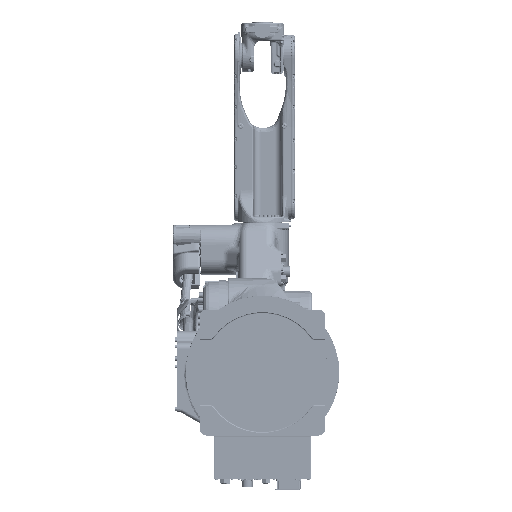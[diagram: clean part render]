
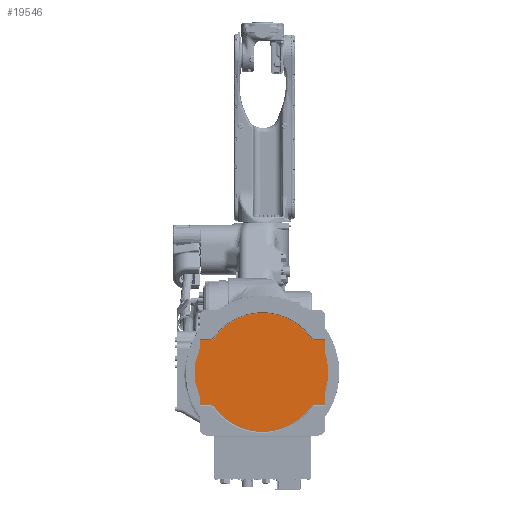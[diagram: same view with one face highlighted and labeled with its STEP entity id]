
A CAD part, front view. The second image highlights one B-rep face of the part: STEP entity #19546.
In plain terms, the highlighted planar face has unit normal (0, -1, 0).
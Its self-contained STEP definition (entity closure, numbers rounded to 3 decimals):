
#1506=DIRECTION('',(1.,0.,0.));
#1507=VECTOR('',#1506,32.581);
#1508=CARTESIAN_POINT('',(154.919,5.,97.));
#1509=LINE('',#1508,#1507);
#1510=DIRECTION('',(-1.,0.,0.));
#1511=VECTOR('',#1510,32.581);
#1512=CARTESIAN_POINT('',(187.5,5.,-97.));
#1513=LINE('',#1512,#1511);
#1514=CARTESIAN_POINT('',(154.919,5.,-110.));
#1515=DIRECTION('',(0.,-1.,0.));
#1516=DIRECTION('',(0.,0.,1.));
#1517=AXIS2_PLACEMENT_3D('',#1514,#1515,#1516);
#1519=CARTESIAN_POINT('',(0.,5.,0.));
#1520=DIRECTION('',(0.,1.,0.));
#1521=DIRECTION('',(0.815,0.,-0.579));
#1522=AXIS2_PLACEMENT_3D('',#1519,#1520,#1521);
#1524=CARTESIAN_POINT('',(-154.919,5.,-110.));
#1525=DIRECTION('',(0.,-1.,0.));
#1526=DIRECTION('',(0.815,0.,0.579));
#1527=AXIS2_PLACEMENT_3D('',#1524,#1525,#1526);
#1529=DIRECTION('',(-1.,0.,0.));
#1530=VECTOR('',#1529,32.581);
#1531=CARTESIAN_POINT('',(-154.919,5.,-97.));
#1532=LINE('',#1531,#1530);
#1533=DIRECTION('',(1.,0.,0.));
#1534=VECTOR('',#1533,32.581);
#1535=CARTESIAN_POINT('',(-187.5,5.,97.));
#1536=LINE('',#1535,#1534);
#1537=CARTESIAN_POINT('',(-154.919,5.,110.));
#1538=DIRECTION('',(0.,-1.,0.));
#1539=DIRECTION('',(0.,0.,-1.));
#1540=AXIS2_PLACEMENT_3D('',#1537,#1538,#1539);
#1542=CARTESIAN_POINT('',(0.,5.,0.));
#1543=DIRECTION('',(0.,1.,0.));
#1544=DIRECTION('',(-0.815,0.,0.579));
#1545=AXIS2_PLACEMENT_3D('',#1542,#1543,#1544);
#1547=CARTESIAN_POINT('',(154.919,5.,110.));
#1548=DIRECTION('',(0.,-1.,0.));
#1549=DIRECTION('',(-0.815,0.,-0.579));
#1550=AXIS2_PLACEMENT_3D('',#1547,#1548,#1549);
#1594=DIRECTION('',(0.,0.,1.));
#1595=VECTOR('',#1594,23.948);
#1596=CARTESIAN_POINT('',(-187.5,5.,73.052));
#1597=LINE('',#1596,#1595);
#1615=CARTESIAN_POINT('',(-207.5,5.,73.052));
#1616=DIRECTION('',(0.,1.,0.));
#1617=DIRECTION('',(1.,0.,0.));
#1618=AXIS2_PLACEMENT_3D('',#1615,#1616,#1617);
#1661=DIRECTION('',(-0.298,0.,-0.954));
#1662=VECTOR('',#1661,38.855);
#1663=CARTESIAN_POINT('',(-188.41,5.,67.087));
#1664=LINE('',#1663,#1662);
#1703=DIRECTION('',(0.,0.,-1.));
#1704=VECTOR('',#1703,60.);
#1705=CARTESIAN_POINT('',(-200.,5.,30.));
#1706=LINE('',#1705,#1704);
#1750=CARTESIAN_POINT('',(-207.5,5.,-73.052));
#1751=DIRECTION('',(0.,1.,0.));
#1752=DIRECTION('',(0.954,0.,0.298));
#1753=AXIS2_PLACEMENT_3D('',#1750,#1751,#1752);
#1763=DIRECTION('',(0.298,0.,-0.954));
#1764=VECTOR('',#1763,38.855);
#1765=CARTESIAN_POINT('',(-200.,5.,-30.));
#1766=LINE('',#1765,#1764);
#1771=DIRECTION('',(0.,0.,1.));
#1772=VECTOR('',#1771,23.948);
#1773=CARTESIAN_POINT('',(-187.5,5.,-97.));
#1774=LINE('',#1773,#1772);
#2068=CARTESIAN_POINT('',(0.,5.,0.));
#2069=DIRECTION('',(0.,-1.,0.));
#2070=DIRECTION('',(0.963,0.,-0.269));
#2071=AXIS2_PLACEMENT_3D('',#2068,#2069,#2070);
#2084=CARTESIAN_POINT('',(207.5,5.,58.028));
#2085=DIRECTION('',(0.,1.,0.));
#2086=DIRECTION('',(-0.963,0.,-0.269));
#2087=AXIS2_PLACEMENT_3D('',#2084,#2085,#2086);
#2089=DIRECTION('',(0.,0.,1.));
#2090=VECTOR('',#2089,38.972);
#2091=CARTESIAN_POINT('',(187.5,5.,58.028));
#2092=LINE('',#2091,#2090);
#2552=CARTESIAN_POINT('',(207.5,5.,-58.028));
#2553=DIRECTION('',(0.,1.,0.));
#2554=DIRECTION('',(-1.,0.,0.));
#2555=AXIS2_PLACEMENT_3D('',#2552,#2553,#2554);
#2591=DIRECTION('',(0.,0.,1.));
#2592=VECTOR('',#2591,38.972);
#2593=CARTESIAN_POINT('',(187.5,5.,-97.));
#2594=LINE('',#2593,#2592);
#15098=CARTESIAN_POINT('',(-200.,5.,30.));
#15099=CARTESIAN_POINT('',(-200.,5.,-30.));
#15100=VERTEX_POINT('',#15098);
#15101=VERTEX_POINT('',#15099);
#15122=CARTESIAN_POINT('',(-154.919,5.,-97.));
#15123=CARTESIAN_POINT('',(-187.5,5.,-97.));
#15124=VERTEX_POINT('',#15122);
#15125=VERTEX_POINT('',#15123);
#15130=CARTESIAN_POINT('',(-144.32,5.,-102.474));
#15131=VERTEX_POINT('',#15130);
#15134=CARTESIAN_POINT('',(144.32,5.,-102.474));
#15135=VERTEX_POINT('',#15134);
#15138=CARTESIAN_POINT('',(154.919,5.,-97.));
#15139=VERTEX_POINT('',#15138);
#15144=CARTESIAN_POINT('',(187.5,5.,-97.));
#15145=VERTEX_POINT('',#15144);
#15146=CARTESIAN_POINT('',(154.919,5.,97.));
#15147=CARTESIAN_POINT('',(187.5,5.,97.));
#15148=VERTEX_POINT('',#15146);
#15149=VERTEX_POINT('',#15147);
#15154=CARTESIAN_POINT('',(144.32,5.,102.474));
#15155=VERTEX_POINT('',#15154);
#15158=CARTESIAN_POINT('',(-144.32,5.,102.474));
#15159=VERTEX_POINT('',#15158);
#15162=CARTESIAN_POINT('',(-154.919,5.,97.));
#15163=VERTEX_POINT('',#15162);
#15168=CARTESIAN_POINT('',(-187.5,5.,97.));
#15169=VERTEX_POINT('',#15168);
#15196=CARTESIAN_POINT('',(-187.5,5.,73.052));
#15197=CARTESIAN_POINT('',(-188.41,5.,67.087));
#15198=VERTEX_POINT('',#15196);
#15199=VERTEX_POINT('',#15197);
#15200=CARTESIAN_POINT('',(-188.41,5.,-67.087));
#15201=CARTESIAN_POINT('',(-187.5,5.,-73.052));
#15202=VERTEX_POINT('',#15200);
#15203=VERTEX_POINT('',#15201);
#15272=CARTESIAN_POINT('',(187.5,5.,58.028));
#15274=VERTEX_POINT('',#15272);
#15276=CARTESIAN_POINT('',(188.239,5.,52.642));
#15278=VERTEX_POINT('',#15276);
#15281=CARTESIAN_POINT('',(188.239,5.,-52.642));
#15283=VERTEX_POINT('',#15281);
#15285=CARTESIAN_POINT('',(187.5,5.,-58.028));
#15287=VERTEX_POINT('',#15285);
#19496=CARTESIAN_POINT('',(0.,5.,0.));
#19497=DIRECTION('',(0.,1.,0.));
#19498=DIRECTION('',(-1.,0.,0.));
#19499=AXIS2_PLACEMENT_3D('',#19496,#19497,#19498);
#19500=PLANE('',#19499);
#19502=ORIENTED_EDGE('',*,*,#19501,.T.);
#19504=ORIENTED_EDGE('',*,*,#19503,.F.);
#19506=ORIENTED_EDGE('',*,*,#19505,.F.);
#19508=ORIENTED_EDGE('',*,*,#19507,.F.);
#19510=ORIENTED_EDGE('',*,*,#19509,.F.);
#19512=ORIENTED_EDGE('',*,*,#19511,.F.);
#19514=ORIENTED_EDGE('',*,*,#19513,.T.);
#19516=ORIENTED_EDGE('',*,*,#19515,.T.);
#19518=ORIENTED_EDGE('',*,*,#19517,.T.);
#19519=ORIENTED_EDGE('',*,*,#19486,.T.);
#19521=ORIENTED_EDGE('',*,*,#19520,.T.);
#19523=ORIENTED_EDGE('',*,*,#19522,.T.);
#19525=ORIENTED_EDGE('',*,*,#19524,.F.);
#19527=ORIENTED_EDGE('',*,*,#19526,.F.);
#19529=ORIENTED_EDGE('',*,*,#19528,.F.);
#19531=ORIENTED_EDGE('',*,*,#19530,.F.);
#19533=ORIENTED_EDGE('',*,*,#19532,.F.);
#19535=ORIENTED_EDGE('',*,*,#19534,.T.);
#19537=ORIENTED_EDGE('',*,*,#19536,.T.);
#19539=ORIENTED_EDGE('',*,*,#19538,.T.);
#19541=ORIENTED_EDGE('',*,*,#19540,.T.);
#19543=ORIENTED_EDGE('',*,*,#19542,.T.);
#19544=EDGE_LOOP('',(#19502,#19504,#19506,#19508,#19510,#19512,#19514,#19516,
#19518,#19519,#19521,#19523,#19525,#19527,#19529,#19531,#19533,#19535,#19537,
#19539,#19541,#19543));
#19545=FACE_OUTER_BOUND('',#19544,.F.);
#19546=ADVANCED_FACE('',(#19545),#19500,.F.);
#1518=CIRCLE('',#1517,13.);
#1523=CIRCLE('',#1522,177.);
#1528=CIRCLE('',#1527,13.);
#1541=CIRCLE('',#1540,13.);
#1546=CIRCLE('',#1545,177.);
#1551=CIRCLE('',#1550,13.);
#1619=CIRCLE('',#1618,20.);
#1754=CIRCLE('',#1753,20.);
#2072=CIRCLE('',#2071,195.461);
#2088=CIRCLE('',#2087,20.);
#2556=CIRCLE('',#2555,20.);
#19486=EDGE_CURVE('',#15131,#15124,#1528,.T.);
#19501=EDGE_CURVE('',#15148,#15149,#1509,.T.);
#19503=EDGE_CURVE('',#15274,#15149,#2092,.T.);
#19505=EDGE_CURVE('',#15278,#15274,#2088,.T.);
#19507=EDGE_CURVE('',#15283,#15278,#2072,.T.);
#19509=EDGE_CURVE('',#15287,#15283,#2556,.T.);
#19511=EDGE_CURVE('',#15145,#15287,#2594,.T.);
#19513=EDGE_CURVE('',#15145,#15139,#1513,.T.);
#19515=EDGE_CURVE('',#15139,#15135,#1518,.T.);
#19517=EDGE_CURVE('',#15135,#15131,#1523,.T.);
#19520=EDGE_CURVE('',#15124,#15125,#1532,.T.);
#19522=EDGE_CURVE('',#15125,#15203,#1774,.T.);
#19524=EDGE_CURVE('',#15202,#15203,#1754,.T.);
#19526=EDGE_CURVE('',#15101,#15202,#1766,.T.);
#19528=EDGE_CURVE('',#15100,#15101,#1706,.T.);
#19530=EDGE_CURVE('',#15199,#15100,#1664,.T.);
#19532=EDGE_CURVE('',#15198,#15199,#1619,.T.);
#19534=EDGE_CURVE('',#15198,#15169,#1597,.T.);
#19536=EDGE_CURVE('',#15169,#15163,#1536,.T.);
#19538=EDGE_CURVE('',#15163,#15159,#1541,.T.);
#19540=EDGE_CURVE('',#15159,#15155,#1546,.T.);
#19542=EDGE_CURVE('',#15155,#15148,#1551,.T.);
